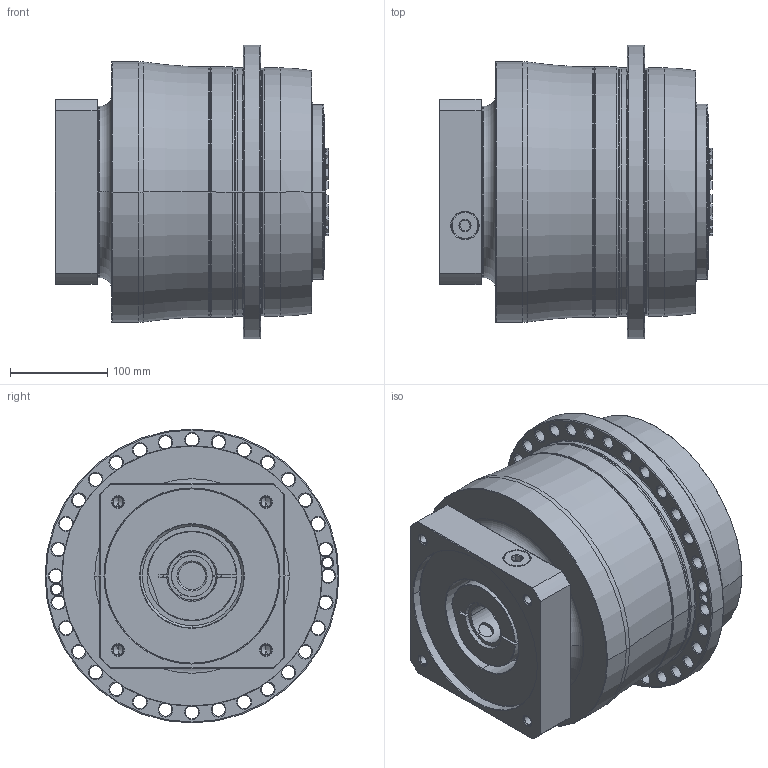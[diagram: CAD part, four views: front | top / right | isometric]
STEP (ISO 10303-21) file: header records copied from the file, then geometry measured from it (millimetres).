
FILE_DESCRIPTION((''),'2;1');
FILE_NAME('APC255_2ST_42-P0409A00201_ASM','2018-06-29T',('d01226'),(''),'PRO/ENGINEER BY PARAMETRIC TECHNOLOGY CORPORATION, 2008410','PRO/ENGINEER BY PARAMETRIC TECHNOLOGY CORPORATION, 2008410','');
FILE_SCHEMA(('CONFIG_CONTROL_DESIGN'));
Length unit declared in the file: millimetre
Products named in the file (9): P0278701003; P0359770103; P1317710301; P0503A00012; P0912603001; P1211700001; P0409A00201; 21711422019; APC255_2ST_42-P0409A00201_ASM
Assembly tree (8 placements, depth 2):
  APC255_2ST_42-P0409A00201_ASM
    P0278701003
    P0359770103
    P1317710301
    P0503A00012
    P0912603001
    P1211700001
    P0409A00201
    21711422019
Bounding box: 281.1 x 302 x 302 mm (x, y, z)
Volume: 11666583 mm3; surface area: 818688.1 mm2
Topology: 9 solids, 21 shells, 767 faces, 1881 edges, 1147 vertices
Faces by surface type: cone 274, cylinder 236, plane 131, torus 112, bspline 14
Entity records: 27998 total; most frequent: CARTESIAN_POINT 9407, DIRECTION 4165, ORIENTED_EDGE 3676, EDGE_CURVE 1863, AXIS2_PLACEMENT_3D 1811, VERTEX_POINT 1147, CIRCLE 1029, EDGE_LOOP 884
